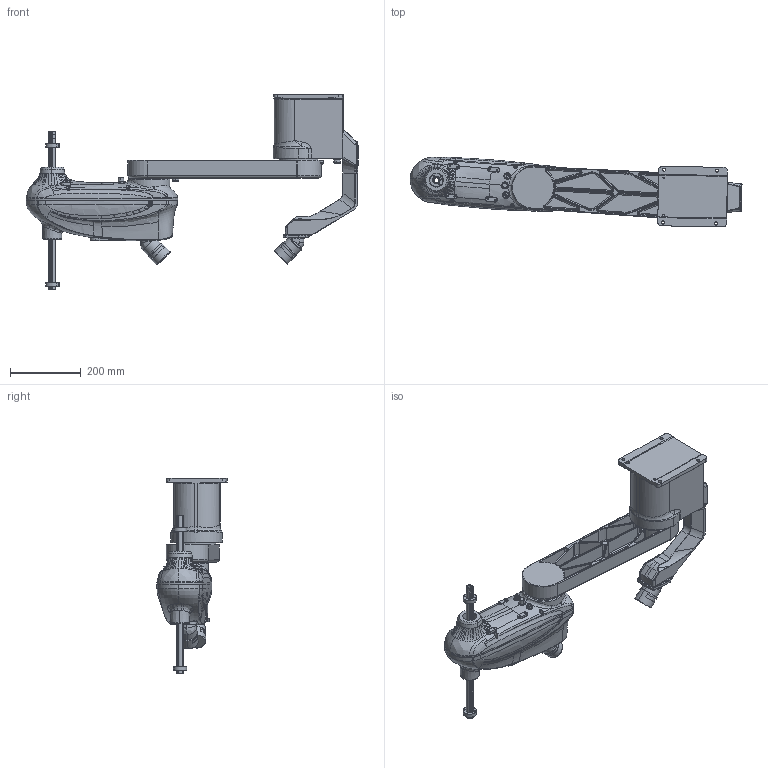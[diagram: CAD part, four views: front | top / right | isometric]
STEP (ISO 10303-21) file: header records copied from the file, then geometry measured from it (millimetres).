
FILE_DESCRIPTION (( 'STEP AP214' ), '1' );
FILE_NAME ('MR06SC-700.STEP', '2023-08-02T01:18:20', ( '' ), ( '' ), 'SwSTEP 2.0', 'SolidWorks 2018', '' );
FILE_SCHEMA (( 'AUTOMOTIVE_DESIGN' ));
Length unit declared in the file: millimetre
Products named in the file (5): MR06SC-700.sldasm-Part-3; MR06SC-700.sldasm-Part-1; MR06SC-700; MR06SC-700.sldasm-Part-2; MR06SC-700.sldasm-Part-4
Assembly tree (4 placements, depth 2):
  MR06SC-700
    MR06SC-700.sldasm-Part-1
    MR06SC-700.sldasm-Part-2
    MR06SC-700.sldasm-Part-3
    MR06SC-700.sldasm-Part-4
Bounding box: 941.77 x 198.83 x 555.21 mm (x, y, z)
Volume: 14924003.2 mm3; surface area: 896122 mm2
Topology: 4 solids, 4 shells, 1422 faces, 4222 edges, 2798 vertices
Faces by surface type: bspline 531, cylinder 392, plane 242, torus 161, cone 85, sphere 11
Entity records: 172164 total; most frequent: CARTESIAN_POINT 137904, ORIENTED_EDGE 8372, DIRECTION 5116, EDGE_CURVE 4186, VERTEX_POINT 2793, AXIS2_PLACEMENT_3D 2062, B_SPLINE_CURVE_WITH_KNOTS 1902, EDGE_LOOP 1499
